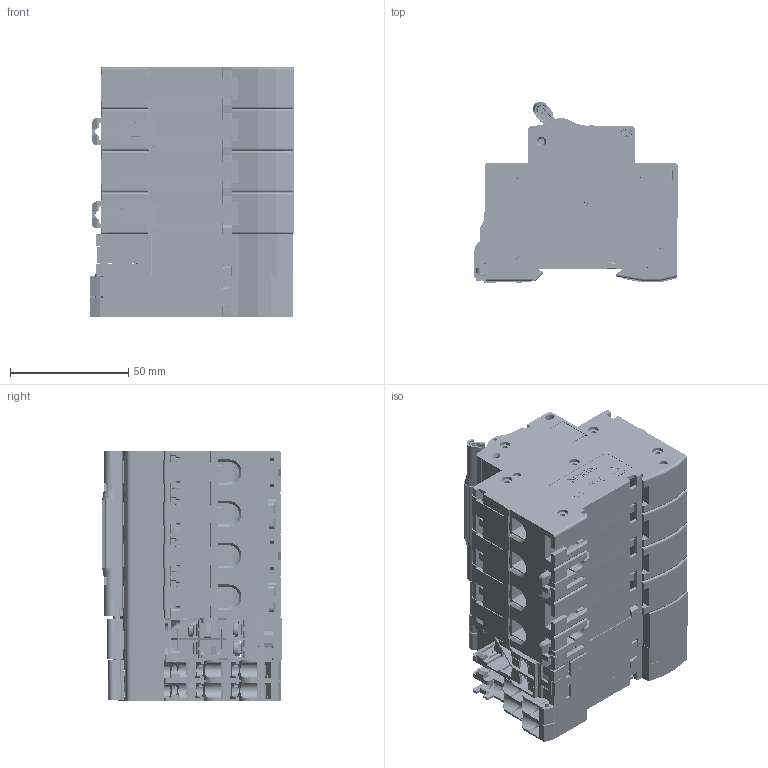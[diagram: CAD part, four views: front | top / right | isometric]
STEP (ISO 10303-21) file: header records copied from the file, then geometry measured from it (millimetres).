
FILE_DESCRIPTION (( 'STEP AP214' ), '1' );
FILE_NAME ('4P+MX+OF2+OF2+SD2.STEP', '2019-02-22T03:51:20', ( '' ), ( '' ), 'SwSTEP 2.0', 'SolidWorks 2011', '' );
FILE_SCHEMA (( 'AUTOMOTIVE_DESIGN' ));
Length unit declared in the file: millimetre
Products named in the file (14): OF2 耀倰芞; 6LD.229.119; 4p; 8LD.315.141; 8LD.253.173; 8LD.143.115; 8LD.315.140; 5LD.574.103; 8LD.907.115; 8LD.516.135; 8LD.253.129; 8LD.024.137; 4P+MX+OF2+OF2+SD2; SD2 耀倰芞
Assembly tree (31 placements, depth 4):
  4P+MX+OF2+OF2+SD2
    6LD.229.119
    OF2 耀倰芞
    SD2 耀倰芞
    4p
      5LD.574.103  x8
        8LD.516.135
        8LD.907.115
      8LD.315.140  x4
      8LD.253.129  x4
      8LD.315.141  x2
      8LD.024.137  x4
      8LD.143.115  x2
      8LD.253.173
Bounding box: 85.82 x 76.41 x 105.33 mm (x, y, z)
Volume: 130525.2 mm3; surface area: 262341.5 mm2
Topology: 33 solids, 113 shells, 16196 faces, 48882 edges, 33047 vertices
Faces by surface type: plane 9664, cylinder 4512, cone 1231, bspline 670, torus 87, sphere 32
Entity records: 215202 total; most frequent: CARTESIAN_POINT 59519, ORIENTED_EDGE 31871, DIRECTION 28901, EDGE_CURVE 17983, VERTEX_POINT 12748, LINE 12367, VECTOR 12367, AXIS2_PLACEMENT_3D 8267
